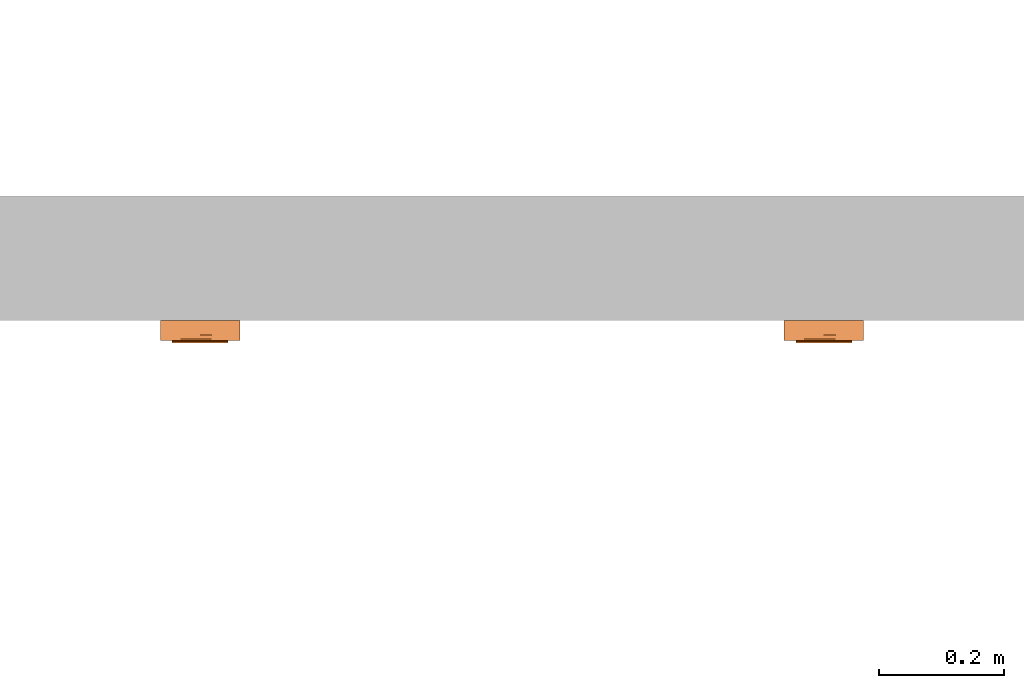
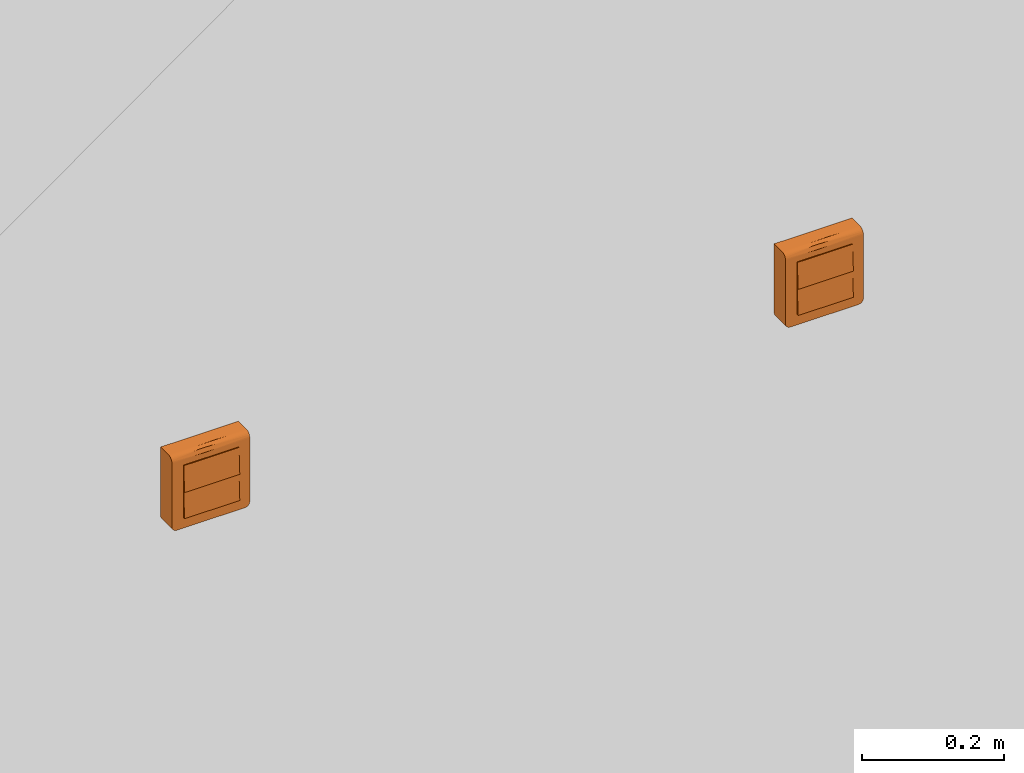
# One storey, part 162 of 197: 2 proxies.
"""IFC2X3 building model written with IfcOpenShell, lengths in metres."""

from ifc_helpers import new_model, entity, si_unit, converted_unit, direction, frame, origin, place, context, subcontext, project, spatial, faceted_brep, source, transform, mapped, material, material_list, type_object, type_shapes, element, save


model = new_model("IFC2X3")

# Units and contexts
model_context = context("Model", 3, precision=1e-05, world=origin(), true_north=direction((6.123031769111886e-17, 1.0)))
body_context = subcontext(model_context, "Body", "Model", "MODEL_VIEW")
ifc_project = project(units=[si_unit("LENGTHUNIT", "METRE"), converted_unit("PLANEANGLEUNIT", "DEGREE", entity("IfcPlaneAngleMeasure", 0.017453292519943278), si_unit("PLANEANGLEUNIT", "RADIAN"), dimensions=[0, 0, 0, 0, 0, 0, 0]), si_unit("AREAUNIT", "SQUARE_METRE")], contexts=[model_context])

# Site, building, storey
site_placement = place(None, origin())
site = spatial("IfcSite", under=ifc_project, at=site_placement, Name="Default", CompositionType="ELEMENT")
building_placement = place(site_placement, origin())
building = spatial("IfcBuilding", under=site, at=building_placement, CompositionType="ELEMENT")
storey_placement = place(building_placement, origin())
storey = spatial("IfcBuildingStorey", under=building, at=storey_placement, Name="Niveau 0", CompositionType="ELEMENT", Elevation=0.0)

# Proxies
ifc_material_1 = material(Name="BETCE-CADRE-BLANC")
ifc_material_2 = material(Name="BETCE-DOIGT-BLANC")
ifc_material_3 = material(Name="BETCE-ENJOLIVEUR-BLANC")
ifc_material_list = material_list([ifc_material_1, ifc_material_2, ifc_material_3])
building_element_proxy_type_1 = type_object("IfcBuildingElementProxyType", Name="Tableau commande 2x4 modules saillie:1 BP + 7 SA", PredefinedType="NOTDEFINED", material=ifc_material_list)
shared_shape_1 = source(origin(), body_context, "Body", "Brep", [
    faceted_brep([(0.06349999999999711, -0.022999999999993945, 0.0635), (-0.06350000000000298, -0.022999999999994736, 0.0635), (-0.06350000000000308, -0.022999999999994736, -0.055499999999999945), (-0.06322740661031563, -0.022999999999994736, -0.05757055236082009), (-0.06242820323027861, -0.02299999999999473, -0.059499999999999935), (-0.06115685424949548, -0.022999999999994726, -0.06115685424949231), (-0.05950000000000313, -0.022999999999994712, -0.06242820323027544), (-0.05757055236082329, -0.0229999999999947, -0.06322740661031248), (-0.05550000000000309, -0.022999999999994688, -0.06350000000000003), (0.055499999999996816, -0.022999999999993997, -0.0635000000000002), (0.057570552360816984, -0.022999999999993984, -0.06322740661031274), (0.05949999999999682, -0.022999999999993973, -0.062428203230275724), (0.06115685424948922, -0.022999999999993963, -0.061156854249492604), (0.062428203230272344, -0.022999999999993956, -0.05950000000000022), (0.0632274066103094, -0.022999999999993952, -0.0575705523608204), (0.06349999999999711, -0.022999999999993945, -0.05550000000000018), (-0.05550000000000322, 0.0, -0.06349999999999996), (-0.05757055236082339, 0.0, -0.06322740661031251), (-0.05950000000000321, 0.0, -0.062428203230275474), (-0.06115685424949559, 0.0, -0.06115685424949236), (-0.06242820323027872, 0.0, -0.05949999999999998), (-0.06322740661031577, 0.0, -0.05757055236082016), (-0.06350000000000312, 0.0, -0.055499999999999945), (-0.06350000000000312, 0.0, 0.0635), (0.06349999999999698, 0.0, 0.0635), (0.06349999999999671, 0.0, -0.05550000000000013), (0.06322740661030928, 0.0, -0.0575705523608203), (0.06242820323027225, 0.0, -0.05950000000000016), (0.06115685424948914, 0.0, -0.061156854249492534), (0.059499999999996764, 0.0, -0.062428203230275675), (0.05757055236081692, 0.0, -0.06322740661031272), (0.055499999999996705, 0.0, -0.0635)], [[[0, 1, 2, 3, 4, 5, 6, 7, 8, 9, 10, 11, 12, 13, 14, 15]], [[16, 17, 18, 19, 20, 21, 22, 23, 24, 25, 26, 27, 28, 29, 30, 31]], [[2, 1, 23, 22]], [[9, 8, 16, 31]], [[0, 15, 25, 24]], [[1, 0, 24, 23]], [[25, 15, 14, 26]], [[26, 14, 13, 27]], [[27, 13, 12, 28]], [[29, 11, 10, 30]], [[30, 10, 9, 31]], [[28, 12, 11, 29]], [[17, 16, 8, 7]], [[18, 17, 7, 6]], [[19, 18, 6, 5]], [[20, 19, 5, 4]], [[21, 20, 4, 3]], [[22, 21, 3, 2]]]),
    faceted_brep([(0.022499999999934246, -0.022999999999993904, -0.045000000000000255), (0.022499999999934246, -0.022999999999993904, 0.0), (0.04499999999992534, -0.022999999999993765, 0.0), (0.04499999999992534, -0.022999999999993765, -0.045000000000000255), (0.022499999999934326, -0.03574999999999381, -0.045000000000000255), (0.02249999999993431, -0.033499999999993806, 0.0), (0.044999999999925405, -0.03349999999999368, 0.0), (0.04499999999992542, -0.03574999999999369, -0.045000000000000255)], [[[0, 1, 2, 3]], [[1, 0, 4, 5]], [[2, 1, 5, 6]], [[3, 2, 6, 7]], [[0, 3, 7, 4]], [[5, 4, 7, 6]]]),
    faceted_brep([(0.0, -0.022999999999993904, -0.04500000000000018), (0.0, -0.022999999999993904, 0.0), (0.02249999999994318, -0.022999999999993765, 0.0), (0.02249999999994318, -0.022999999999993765, -0.04500000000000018), (0.0, -0.03574999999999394, -0.04500000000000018), (0.0, -0.03349999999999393, 0.0), (0.022499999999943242, -0.033499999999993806, 0.0), (0.02249999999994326, -0.03574999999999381, -0.04500000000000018)], [[[0, 1, 2, 3]], [[1, 0, 4, 5]], [[2, 1, 5, 6]], [[3, 2, 6, 7]], [[0, 3, 7, 4]], [[5, 4, 7, 6]]]),
    faceted_brep([(-0.02250000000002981, -0.022999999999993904, -0.0450000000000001), (-0.02250000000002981, -0.022999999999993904, 0.0), (0.0, -0.022999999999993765, 0.0), (0.0, -0.022999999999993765, -0.0450000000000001), (-0.02250000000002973, -0.03574999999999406, -0.0450000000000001), (-0.022500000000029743, -0.03349999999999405, 0.0), (0.0, -0.033499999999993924, 0.0), (0.0, -0.03574999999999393, -0.0450000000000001)], [[[0, 1, 2, 3]], [[1, 0, 4, 5]], [[2, 1, 5, 6]], [[3, 2, 6, 7]], [[0, 3, 7, 4]], [[5, 4, 7, 6]]]),
    faceted_brep([(-0.04500000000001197, -0.022999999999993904, -0.045000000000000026), (-0.04500000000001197, -0.022999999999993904, 0.0), (-0.022500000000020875, -0.022999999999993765, 0.0), (-0.022500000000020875, -0.022999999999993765, -0.045000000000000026), (-0.04500000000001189, -0.03574999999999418, -0.045000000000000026), (-0.0450000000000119, -0.03349999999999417, 0.0), (-0.02250000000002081, -0.03349999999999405, 0.0), (-0.022500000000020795, -0.03574999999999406, -0.045000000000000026)], [[[0, 1, 2, 3]], [[1, 0, 4, 5]], [[2, 1, 5, 6]], [[3, 2, 6, 7]], [[0, 3, 7, 4]], [[5, 4, 7, 6]]]),
    faceted_brep([(0.02249999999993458, -0.03349999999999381, 0.04499999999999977), (0.022499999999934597, -0.03574999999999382, 0.0), (0.04499999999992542, -0.0357499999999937, 0.0), (0.044999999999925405, -0.03349999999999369, 0.04499999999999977), (0.022499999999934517, -0.022999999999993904, 0.0), (0.022499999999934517, -0.022999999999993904, 0.04499999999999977), (0.04499999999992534, -0.022999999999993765, 0.04499999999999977), (0.04499999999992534, -0.022999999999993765, 0.0)], [[[0, 1, 2, 3]], [[4, 5, 6, 7]], [[5, 4, 1, 0]], [[6, 5, 0, 3]], [[7, 6, 3, 2]], [[4, 7, 2, 1]]]),
    faceted_brep([(0.0, -0.03349999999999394, 0.044999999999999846), (0.0, -0.035749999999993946, 0.0), (0.02249999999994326, -0.03574999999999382, 0.0), (0.022499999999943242, -0.03349999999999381, 0.044999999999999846), (0.0, -0.022999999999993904, 0.0), (0.0, -0.022999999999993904, 0.044999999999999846), (0.02249999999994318, -0.022999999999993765, 0.04499999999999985), (0.02249999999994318, -0.022999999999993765, 0.0)], [[[0, 1, 2, 3]], [[4, 5, 6, 7]], [[5, 4, 1, 0]], [[6, 5, 0, 3]], [[7, 6, 3, 2]], [[4, 7, 2, 1]]]),
    faceted_brep([(-0.022500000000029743, -0.03349999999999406, 0.04499999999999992), (-0.02250000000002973, -0.03574999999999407, 0.0), (0.0, -0.03574999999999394, 0.0), (0.0, -0.03349999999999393, 0.04499999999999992), (-0.02250000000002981, -0.022999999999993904, 0.0), (-0.02250000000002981, -0.022999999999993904, 0.04499999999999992), (0.0, -0.022999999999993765, 0.04499999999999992), (0.0, -0.022999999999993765, 0.0)], [[[0, 1, 2, 3]], [[4, 5, 6, 7]], [[5, 4, 1, 0]], [[6, 5, 0, 3]], [[7, 6, 3, 2]], [[4, 7, 2, 1]]]),
    faceted_brep([(-0.04500000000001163, -0.03349999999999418, 0.045), (-0.045000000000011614, -0.03574999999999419, 0.0), (-0.022500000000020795, -0.035749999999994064, 0.0), (-0.02250000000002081, -0.03349999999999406, 0.045), (-0.0450000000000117, -0.022999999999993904, 0.0), (-0.0450000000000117, -0.022999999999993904, 0.045), (-0.022500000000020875, -0.022999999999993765, 0.045000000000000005), (-0.022500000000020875, -0.022999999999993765, 0.0)], [[[0, 1, 2, 3]], [[4, 5, 6, 7]], [[5, 4, 1, 0]], [[6, 5, 0, 3]], [[7, 6, 3, 2]], [[4, 7, 2, 1]]]),
    faceted_brep([(0.06349999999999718, -0.03199999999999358, -0.055500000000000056), (0.063499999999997, -0.03199999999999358, 0.05450000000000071), (0.04499999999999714, -0.03199999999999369, -0.045000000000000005), (0.05549999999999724, -0.03199999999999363, -0.06350000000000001), (0.057570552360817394, -0.03199999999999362, -0.06322740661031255), (0.06322740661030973, -0.03199999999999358, -0.05757055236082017), (0.04499999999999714, -0.03199999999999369, 0.045), (-0.04500000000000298, -0.031999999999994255, 0.045000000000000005), (-0.011124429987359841, -0.03199999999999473, 0.054500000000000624), (-0.06350000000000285, -0.03199999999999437, 0.05450000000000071), (-0.04500000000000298, -0.031999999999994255, -0.045000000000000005), (-0.06350000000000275, -0.03199999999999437, -0.05550000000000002), (-0.05550000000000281, -0.03199999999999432, -0.06350000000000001), (-0.05757055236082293, -0.03199999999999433, -0.06322740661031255), (-0.06322740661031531, -0.031999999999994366, -0.05757055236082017), (-0.05950000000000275, -0.031999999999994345, -0.062428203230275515), (-0.06242820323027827, -0.03199999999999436, -0.05950000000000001), (-0.06115685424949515, -0.03199999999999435, -0.06115685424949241), (0.05949999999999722, -0.0319999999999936, -0.062428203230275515), (0.062428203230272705, -0.03199999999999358, -0.05949999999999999), (0.06115685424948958, -0.031999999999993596, -0.061156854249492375), (-0.06350000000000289, -0.02299999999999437, -0.05550000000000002), (-0.06350000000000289, -0.02299999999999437, 0.06350000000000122), (-0.04500000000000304, -0.02299999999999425, 0.045000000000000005), (-0.04500000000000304, -0.02299999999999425, -0.045000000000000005), (-0.05550000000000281, -0.02299999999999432, -0.06350000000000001), (-0.06322740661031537, -0.022999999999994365, -0.05757055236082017), (0.04499999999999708, -0.022999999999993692, 0.045000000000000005), (0.011124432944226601, -0.022999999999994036, 0.06350000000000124), (0.06349999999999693, -0.022999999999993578, 0.0635), (0.06349999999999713, -0.022999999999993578, -0.05550000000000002), (0.04499999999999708, -0.022999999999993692, -0.045000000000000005), (0.05549999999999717, -0.02299999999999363, -0.06350000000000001), (0.06322740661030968, -0.022999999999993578, -0.05757055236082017), (0.05757055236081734, -0.022999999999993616, -0.06322740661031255), (0.06242820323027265, -0.022999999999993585, -0.05949999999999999), (0.05949999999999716, -0.022999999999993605, -0.062428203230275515), (0.06115685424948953, -0.02299999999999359, -0.061156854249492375), (-0.05757055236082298, -0.02299999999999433, -0.06322740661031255), (-0.062428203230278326, -0.022999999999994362, -0.05950000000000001), (-0.05950000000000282, -0.022999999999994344, -0.062428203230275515), (-0.0611568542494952, -0.02299999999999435, -0.06115685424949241), (0.06349999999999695, -0.025329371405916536, 0.06319333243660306), (0.06349999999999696, -0.02749999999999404, 0.06229422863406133), (0.06349999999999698, -0.029363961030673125, 0.060863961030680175), (0.06349999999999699, -0.03079422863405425, 0.05900000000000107), (0.06349999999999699, -0.03169333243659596, 0.05682937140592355), (-0.06350000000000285, -0.03169333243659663, 0.0568293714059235), (-0.06350000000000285, -0.030794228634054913, 0.059000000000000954), (-0.06350000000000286, -0.029363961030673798, 0.06086396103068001), (-0.06350000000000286, -0.027499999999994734, 0.062294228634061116), (-0.06350000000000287, -0.025329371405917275, 0.06319333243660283), (-0.010857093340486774, -0.029120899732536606, 0.06109807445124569)], [[[0, 1, 2]], [[3, 0, 2]], [[0, 3, 4]], [[5, 0, 4]], [[2, 1, 6]], [[1, 7, 6]], [[7, 1, 8]], [[7, 8, 9]], [[10, 7, 9]], [[11, 10, 9]], [[12, 10, 11]], [[12, 11, 13]], [[13, 11, 14]], [[15, 13, 14]], [[16, 15, 14]], [[15, 16, 17]], [[10, 12, 3]], [[2, 10, 3]], [[5, 4, 18]], [[5, 18, 19]], [[20, 19, 18]], [[21, 22, 23]], [[24, 21, 23]], [[25, 21, 24]], [[26, 21, 25]], [[22, 27, 23]], [[27, 22, 28]], [[27, 28, 29]], [[30, 27, 29]], [[31, 27, 30]], [[32, 31, 30]], [[32, 30, 33]], [[32, 33, 34]], [[33, 35, 34]], [[35, 36, 34]], [[36, 35, 37]], [[31, 32, 25]], [[26, 25, 38]], [[24, 31, 25]], [[39, 26, 38]], [[39, 38, 40]], [[41, 39, 40]], [[1, 0, 30, 29, 42, 43, 44, 45, 46]], [[33, 30, 0, 5]], [[35, 33, 5, 19]], [[37, 35, 19, 20]], [[36, 37, 20, 18]], [[34, 36, 18, 4]], [[32, 34, 4, 3]], [[25, 32, 3, 12]], [[38, 25, 12, 13]], [[40, 38, 13, 15]], [[41, 40, 15, 17]], [[39, 41, 17, 16]], [[26, 39, 16, 14]], [[21, 26, 14, 11]], [[22, 21, 11, 9, 47, 48, 49, 50, 51]], [[24, 23, 7, 10]], [[31, 24, 10, 2]], [[27, 31, 2, 6]], [[23, 27, 6, 7]], [[52, 8, 45]], [[47, 9, 8]], [[1, 46, 8]], [[44, 52, 45]], [[46, 45, 8]], [[50, 52, 51]], [[48, 47, 8]], [[28, 52, 43]], [[48, 52, 49]], [[42, 29, 28]], [[28, 22, 51]], [[48, 8, 52]], [[28, 43, 42]], [[44, 43, 52]], [[52, 50, 49]], [[52, 28, 51]]]),
])
type_shapes(building_element_proxy_type_1, [shared_shape_1])
proxy_1_placement = place(storey_placement, frame((-362.53477966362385, 116.01635778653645, 1.1)))
element("IfcBuildingElementProxy", 1, at=proxy_1_placement, inside=storey, type_object=building_element_proxy_type_1, material=ifc_material_list, Name="Tableau commande 2x4 modules saillie:1 BP + 7 SA", ObjectType="Tableau commande 2x4 modules saillie:1 BP + 7 SA", context=body_context, shape_type="MappedRepresentation", body=[
    mapped(shared_shape_1, transform((0.0, 0.0, 0.0), scale=1.0)),
])
building_element_proxy_type_2 = type_object("IfcBuildingElementProxyType", Name="Tableau commande 2x4 modules saillie:2 BP + 6 SA", PredefinedType="NOTDEFINED", material=ifc_material_list)
shared_shape_2 = source(origin(), body_context, "Body", "Brep", [
    faceted_brep([(0.06349999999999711, -0.022999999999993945, 0.0635), (-0.06350000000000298, -0.022999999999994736, 0.0635), (-0.06350000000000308, -0.022999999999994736, -0.055499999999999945), (-0.06322740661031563, -0.022999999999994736, -0.05757055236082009), (-0.06242820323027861, -0.02299999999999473, -0.059499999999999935), (-0.06115685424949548, -0.022999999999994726, -0.06115685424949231), (-0.05950000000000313, -0.022999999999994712, -0.06242820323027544), (-0.05757055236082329, -0.0229999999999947, -0.06322740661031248), (-0.05550000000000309, -0.022999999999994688, -0.06350000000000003), (0.055499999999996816, -0.022999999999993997, -0.0635000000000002), (0.057570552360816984, -0.022999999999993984, -0.06322740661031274), (0.05949999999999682, -0.022999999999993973, -0.062428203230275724), (0.06115685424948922, -0.022999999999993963, -0.061156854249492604), (0.062428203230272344, -0.022999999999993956, -0.05950000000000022), (0.0632274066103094, -0.022999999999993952, -0.0575705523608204), (0.06349999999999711, -0.022999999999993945, -0.05550000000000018), (-0.05550000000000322, 0.0, -0.06349999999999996), (-0.05757055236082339, 0.0, -0.06322740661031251), (-0.05950000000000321, 0.0, -0.062428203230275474), (-0.06115685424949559, 0.0, -0.06115685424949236), (-0.06242820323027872, 0.0, -0.05949999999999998), (-0.06322740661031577, 0.0, -0.05757055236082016), (-0.06350000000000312, 0.0, -0.055499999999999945), (-0.06350000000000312, 0.0, 0.0635), (0.06349999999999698, 0.0, 0.0635), (0.06349999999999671, 0.0, -0.05550000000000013), (0.06322740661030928, 0.0, -0.0575705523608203), (0.06242820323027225, 0.0, -0.05950000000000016), (0.06115685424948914, 0.0, -0.061156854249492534), (0.059499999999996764, 0.0, -0.062428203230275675), (0.05757055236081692, 0.0, -0.06322740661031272), (0.055499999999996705, 0.0, -0.0635)], [[[0, 1, 2, 3, 4, 5, 6, 7, 8, 9, 10, 11, 12, 13, 14, 15]], [[16, 17, 18, 19, 20, 21, 22, 23, 24, 25, 26, 27, 28, 29, 30, 31]], [[2, 1, 23, 22]], [[9, 8, 16, 31]], [[0, 15, 25, 24]], [[1, 0, 24, 23]], [[25, 15, 14, 26]], [[26, 14, 13, 27]], [[27, 13, 12, 28]], [[29, 11, 10, 30]], [[30, 10, 9, 31]], [[28, 12, 11, 29]], [[17, 16, 8, 7]], [[18, 17, 7, 6]], [[19, 18, 6, 5]], [[20, 19, 5, 4]], [[21, 20, 4, 3]], [[22, 21, 3, 2]]]),
    faceted_brep([(0.022499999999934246, -0.022999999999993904, -0.045000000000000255), (0.022499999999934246, -0.022999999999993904, 0.0), (0.04499999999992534, -0.022999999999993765, 0.0), (0.04499999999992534, -0.022999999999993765, -0.045000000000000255), (0.022499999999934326, -0.03574999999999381, -0.045000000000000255), (0.02249999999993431, -0.033499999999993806, 0.0), (0.044999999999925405, -0.03349999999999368, 0.0), (0.04499999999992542, -0.03574999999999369, -0.045000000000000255)], [[[0, 1, 2, 3]], [[1, 0, 4, 5]], [[2, 1, 5, 6]], [[3, 2, 6, 7]], [[0, 3, 7, 4]], [[5, 4, 7, 6]]]),
    faceted_brep([(0.0, -0.022999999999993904, -0.04500000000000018), (0.0, -0.022999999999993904, 0.0), (0.02249999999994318, -0.022999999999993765, 0.0), (0.02249999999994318, -0.022999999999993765, -0.04500000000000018), (0.0, -0.03574999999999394, -0.04500000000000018), (0.0, -0.03349999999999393, 0.0), (0.022499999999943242, -0.033499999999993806, 0.0), (0.02249999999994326, -0.03574999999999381, -0.04500000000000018)], [[[0, 1, 2, 3]], [[1, 0, 4, 5]], [[2, 1, 5, 6]], [[3, 2, 6, 7]], [[0, 3, 7, 4]], [[5, 4, 7, 6]]]),
    faceted_brep([(-0.02250000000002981, -0.022999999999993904, -0.0450000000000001), (-0.02250000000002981, -0.022999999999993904, 0.0), (0.0, -0.022999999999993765, 0.0), (0.0, -0.022999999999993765, -0.0450000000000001), (-0.02250000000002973, -0.03574999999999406, -0.0450000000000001), (-0.022500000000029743, -0.03349999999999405, 0.0), (0.0, -0.033499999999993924, 0.0), (0.0, -0.03574999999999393, -0.0450000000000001)], [[[0, 1, 2, 3]], [[1, 0, 4, 5]], [[2, 1, 5, 6]], [[3, 2, 6, 7]], [[0, 3, 7, 4]], [[5, 4, 7, 6]]]),
    faceted_brep([(-0.04500000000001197, -0.022999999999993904, -0.045000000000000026), (-0.04500000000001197, -0.022999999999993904, 0.0), (-0.022500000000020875, -0.022999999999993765, 0.0), (-0.022500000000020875, -0.022999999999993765, -0.045000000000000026), (-0.04500000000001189, -0.03574999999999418, -0.045000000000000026), (-0.0450000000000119, -0.03349999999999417, 0.0), (-0.02250000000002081, -0.03349999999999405, 0.0), (-0.022500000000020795, -0.03574999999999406, -0.045000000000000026)], [[[0, 1, 2, 3]], [[1, 0, 4, 5]], [[2, 1, 5, 6]], [[3, 2, 6, 7]], [[0, 3, 7, 4]], [[5, 4, 7, 6]]]),
    faceted_brep([(0.02249999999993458, -0.03349999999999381, 0.04499999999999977), (0.022499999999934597, -0.03574999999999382, 0.0), (0.04499999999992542, -0.0357499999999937, 0.0), (0.044999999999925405, -0.03349999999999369, 0.04499999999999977), (0.022499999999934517, -0.022999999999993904, 0.0), (0.022499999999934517, -0.022999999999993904, 0.04499999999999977), (0.04499999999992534, -0.022999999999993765, 0.04499999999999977), (0.04499999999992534, -0.022999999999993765, 0.0)], [[[0, 1, 2, 3]], [[4, 5, 6, 7]], [[5, 4, 1, 0]], [[6, 5, 0, 3]], [[7, 6, 3, 2]], [[4, 7, 2, 1]]]),
    faceted_brep([(0.0, -0.03349999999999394, 0.044999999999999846), (0.0, -0.035749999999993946, 0.0), (0.02249999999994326, -0.03574999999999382, 0.0), (0.022499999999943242, -0.03349999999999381, 0.044999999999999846), (0.0, -0.022999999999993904, 0.0), (0.0, -0.022999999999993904, 0.044999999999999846), (0.02249999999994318, -0.022999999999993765, 0.04499999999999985), (0.02249999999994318, -0.022999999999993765, 0.0)], [[[0, 1, 2, 3]], [[4, 5, 6, 7]], [[5, 4, 1, 0]], [[6, 5, 0, 3]], [[7, 6, 3, 2]], [[4, 7, 2, 1]]]),
    faceted_brep([(-0.022500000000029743, -0.03349999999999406, 0.04499999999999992), (-0.02250000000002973, -0.03574999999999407, 0.0), (0.0, -0.03574999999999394, 0.0), (0.0, -0.03349999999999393, 0.04499999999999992), (-0.02250000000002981, -0.022999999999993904, 0.0), (-0.02250000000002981, -0.022999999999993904, 0.04499999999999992), (0.0, -0.022999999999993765, 0.04499999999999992), (0.0, -0.022999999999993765, 0.0)], [[[0, 1, 2, 3]], [[4, 5, 6, 7]], [[5, 4, 1, 0]], [[6, 5, 0, 3]], [[7, 6, 3, 2]], [[4, 7, 2, 1]]]),
    faceted_brep([(-0.04500000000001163, -0.03349999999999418, 0.045), (-0.045000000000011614, -0.03574999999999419, 0.0), (-0.022500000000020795, -0.035749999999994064, 0.0), (-0.02250000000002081, -0.03349999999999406, 0.045), (-0.0450000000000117, -0.022999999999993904, 0.0), (-0.0450000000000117, -0.022999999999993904, 0.045), (-0.022500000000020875, -0.022999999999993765, 0.045000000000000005), (-0.022500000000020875, -0.022999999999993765, 0.0)], [[[0, 1, 2, 3]], [[4, 5, 6, 7]], [[5, 4, 1, 0]], [[6, 5, 0, 3]], [[7, 6, 3, 2]], [[4, 7, 2, 1]]]),
    faceted_brep([(0.06349999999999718, -0.03199999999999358, -0.055500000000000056), (0.063499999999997, -0.03199999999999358, 0.05450000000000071), (0.04499999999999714, -0.03199999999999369, -0.045000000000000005), (0.05549999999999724, -0.03199999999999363, -0.06350000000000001), (0.057570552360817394, -0.03199999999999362, -0.06322740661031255), (0.06322740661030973, -0.03199999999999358, -0.05757055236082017), (0.04499999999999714, -0.03199999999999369, 0.045), (-0.04500000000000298, -0.031999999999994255, 0.045000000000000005), (-0.011124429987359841, -0.03199999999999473, 0.054500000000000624), (-0.06350000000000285, -0.03199999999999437, 0.05450000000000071), (-0.04500000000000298, -0.031999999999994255, -0.045000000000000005), (-0.06350000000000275, -0.03199999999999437, -0.05550000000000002), (-0.05550000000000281, -0.03199999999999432, -0.06350000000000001), (-0.05757055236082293, -0.03199999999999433, -0.06322740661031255), (-0.06322740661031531, -0.031999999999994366, -0.05757055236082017), (-0.05950000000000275, -0.031999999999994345, -0.062428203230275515), (-0.06242820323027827, -0.03199999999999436, -0.05950000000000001), (-0.06115685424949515, -0.03199999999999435, -0.06115685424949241), (0.05949999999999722, -0.0319999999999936, -0.062428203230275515), (0.062428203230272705, -0.03199999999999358, -0.05949999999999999), (0.06115685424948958, -0.031999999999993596, -0.061156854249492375), (-0.06350000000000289, -0.02299999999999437, -0.05550000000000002), (-0.06350000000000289, -0.02299999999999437, 0.06350000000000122), (-0.04500000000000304, -0.02299999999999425, 0.045000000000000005), (-0.04500000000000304, -0.02299999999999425, -0.045000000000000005), (-0.05550000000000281, -0.02299999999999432, -0.06350000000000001), (-0.06322740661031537, -0.022999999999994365, -0.05757055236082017), (0.04499999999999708, -0.022999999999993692, 0.045000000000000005), (0.011124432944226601, -0.022999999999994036, 0.06350000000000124), (0.06349999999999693, -0.022999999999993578, 0.0635), (0.06349999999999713, -0.022999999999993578, -0.05550000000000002), (0.04499999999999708, -0.022999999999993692, -0.045000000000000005), (0.05549999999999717, -0.02299999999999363, -0.06350000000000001), (0.06322740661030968, -0.022999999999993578, -0.05757055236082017), (0.05757055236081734, -0.022999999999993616, -0.06322740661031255), (0.06242820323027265, -0.022999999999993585, -0.05949999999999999), (0.05949999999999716, -0.022999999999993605, -0.062428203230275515), (0.06115685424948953, -0.02299999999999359, -0.061156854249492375), (-0.05757055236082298, -0.02299999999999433, -0.06322740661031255), (-0.062428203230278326, -0.022999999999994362, -0.05950000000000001), (-0.05950000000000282, -0.022999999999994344, -0.062428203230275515), (-0.0611568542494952, -0.02299999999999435, -0.06115685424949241), (0.06349999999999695, -0.025329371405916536, 0.06319333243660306), (0.06349999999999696, -0.02749999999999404, 0.06229422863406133), (0.06349999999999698, -0.029363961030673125, 0.060863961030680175), (0.06349999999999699, -0.03079422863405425, 0.05900000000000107), (0.06349999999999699, -0.03169333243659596, 0.05682937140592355), (-0.06350000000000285, -0.03169333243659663, 0.0568293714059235), (-0.06350000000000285, -0.030794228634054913, 0.059000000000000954), (-0.06350000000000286, -0.029363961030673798, 0.06086396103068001), (-0.06350000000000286, -0.027499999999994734, 0.062294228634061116), (-0.06350000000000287, -0.025329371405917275, 0.06319333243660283), (-0.010857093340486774, -0.029120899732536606, 0.06109807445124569)], [[[0, 1, 2]], [[3, 0, 2]], [[0, 3, 4]], [[5, 0, 4]], [[2, 1, 6]], [[1, 7, 6]], [[7, 1, 8]], [[7, 8, 9]], [[10, 7, 9]], [[11, 10, 9]], [[12, 10, 11]], [[12, 11, 13]], [[13, 11, 14]], [[15, 13, 14]], [[16, 15, 14]], [[15, 16, 17]], [[10, 12, 3]], [[2, 10, 3]], [[5, 4, 18]], [[5, 18, 19]], [[20, 19, 18]], [[21, 22, 23]], [[24, 21, 23]], [[25, 21, 24]], [[26, 21, 25]], [[22, 27, 23]], [[27, 22, 28]], [[27, 28, 29]], [[30, 27, 29]], [[31, 27, 30]], [[32, 31, 30]], [[32, 30, 33]], [[32, 33, 34]], [[33, 35, 34]], [[35, 36, 34]], [[36, 35, 37]], [[31, 32, 25]], [[26, 25, 38]], [[24, 31, 25]], [[39, 26, 38]], [[39, 38, 40]], [[41, 39, 40]], [[1, 0, 30, 29, 42, 43, 44, 45, 46]], [[33, 30, 0, 5]], [[35, 33, 5, 19]], [[37, 35, 19, 20]], [[36, 37, 20, 18]], [[34, 36, 18, 4]], [[32, 34, 4, 3]], [[25, 32, 3, 12]], [[38, 25, 12, 13]], [[40, 38, 13, 15]], [[41, 40, 15, 17]], [[39, 41, 17, 16]], [[26, 39, 16, 14]], [[21, 26, 14, 11]], [[22, 21, 11, 9, 47, 48, 49, 50, 51]], [[24, 23, 7, 10]], [[31, 24, 10, 2]], [[27, 31, 2, 6]], [[23, 27, 6, 7]], [[52, 8, 45]], [[47, 9, 8]], [[1, 46, 8]], [[44, 52, 45]], [[46, 45, 8]], [[50, 52, 51]], [[48, 47, 8]], [[28, 52, 43]], [[48, 52, 49]], [[42, 29, 28]], [[28, 22, 51]], [[48, 8, 52]], [[28, 43, 42]], [[44, 43, 52]], [[52, 50, 49]], [[52, 28, 51]]]),
])
type_shapes(building_element_proxy_type_2, [shared_shape_2])
proxy_2_placement = place(storey_placement, frame((-361.5347796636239, 116.01635778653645, 1.1)))
element("IfcBuildingElementProxy", 2, at=proxy_2_placement, inside=storey, type_object=building_element_proxy_type_2, material=ifc_material_list, Name="Tableau commande 2x4 modules saillie:2 BP + 6 SA", ObjectType="Tableau commande 2x4 modules saillie:2 BP + 6 SA", context=body_context, shape_type="MappedRepresentation", body=[
    mapped(shared_shape_2, transform((0.0, 0.0, 0.0), scale=1.0)),
])

save(model, "model.ifc")
